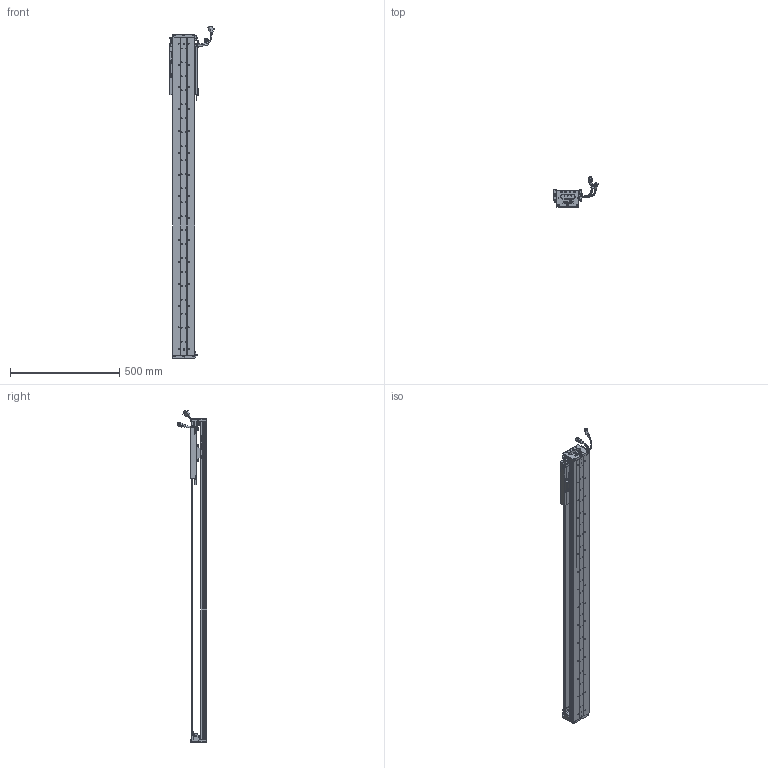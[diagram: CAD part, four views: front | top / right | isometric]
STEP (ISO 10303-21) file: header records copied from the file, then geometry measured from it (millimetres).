
FILE_DESCRIPTION (( 'STEP AP203' ), '1' );
FILE_NAME ('Z3-RY100D-1-L500-B-K.SLDASM_1150.step', '2021-05-17T02:50:29', ( '盈信电脑' ), ( '东莞市道滘镇水果街19号' ), 'SwSTEP 2.0', 'SolidWorks 2016', '' );
FILE_SCHEMA (( 'CONFIG_CONTROL_DESIGN' ));
Length unit declared in the file: millimetre
Products named in the file (36): SCREW-M1.6-2; SCREW-M1.7; HOLDER0; COVER-Part-1; LABEL; 140蚥薯蝶輸; HARNESS-Part-2; SCREW-M1.7-1; 080黍杅芛假蚾釱21遴; SCALE-Part-1; LABEL-Part-1; SCREW-M1.6-3; SCALE; Z-RY100D詩湍奻揤裔; SEAL; Z-RY100D詩湍狟揤裔; SCREW-M1.6; 覜茼ん672; Z3-RY100-L500詩湍90mm遵_1150; 100-Z-臏賑輸盄裔(21遴); SEAL-Part-1; 140雄赽晤鎢ん堤盄; Z-100詩湍傷裔啣; HARNESS-Part-1; Z3-RY100铝滑块（21款）; Z3-RY100D-500-倰第菁釱_1150; PSLH080_PSLF2; SCREW-M1.6-1; 榋妏寠巭燃_暯_M2_2; Z-RY100D覜茼んえ; Z3-RY100D-1-L500-B-K.SLDASM_1150; SHIELDPLATE; COVER; SCALE-Part-2; HARNESS; PBU_SHEET
Assembly tree (43 placements, depth 4):
  Z3-RY100D-1-L500-B-K.SLDASM_1150
    Z3-RY100D-500-倰第菁釱_1150
    Z3-RY100铝滑块（21款）
    PSLH080_PSLF2
      SCALE
        SCALE-Part-1
        SCALE-Part-2
      HARNESS
        HARNESS-Part-1
        HARNESS-Part-2
      LABEL
        LABEL-Part-1
      COVER
        COVER-Part-1
      SEAL
        SEAL-Part-1
      榋妏寠巭燃_暯_M2_2
      SHIELDPLATE
      SCREW-M1.7
      SCREW-M1.7-1
      PBU_SHEET
      SCREW-M1.6
      SCREW-M1.6-1
      SCREW-M1.6-2
      SCREW-M1.6-3
      HOLDER0
    080黍杅芛假蚾釱21遴
    Z-100詩湍傷裔啣  x2
    140蚥薯蝶輸  x2
    覜茼ん672  x3
    Z-RY100D覜茼んえ  x3
    100-Z-臏賑輸盄裔(21遴)
    140雄赽晤鎢ん堤盄
    Z3-RY100-L500詩湍90mm遵_1150
    Z-RY100D詩湍狟揤裔  x2
    Z-RY100D詩湍奻揤裔  x2
Bounding box: 205.84 x 136.11 x 1520.43 mm (x, y, z)
Volume: 3054959.4 mm3; surface area: 1179693.1 mm2
Topology: 38 solids, 38 shells, 2697 faces, 7153 edges, 4536 vertices
Faces by surface type: cylinder 1210, plane 1139, cone 226, torus 69, bspline 53
Entity records: 74595 total; most frequent: CARTESIAN_POINT 15693, DIRECTION 11875, ORIENTED_EDGE 11186, EDGE_CURVE 5593, AXIS2_PLACEMENT_3D 4394, VERTEX_POINT 3604, LINE 3087, VECTOR 3087
